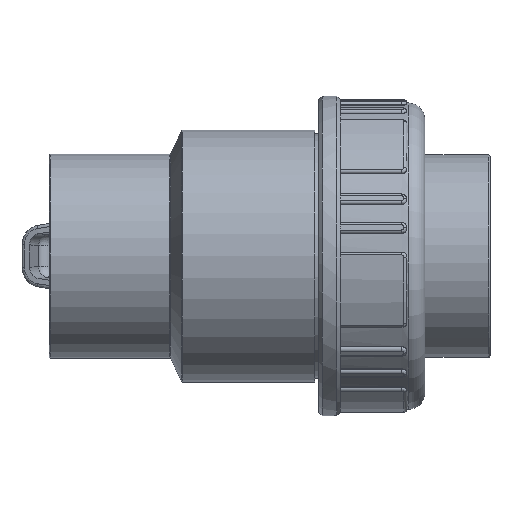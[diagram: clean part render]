
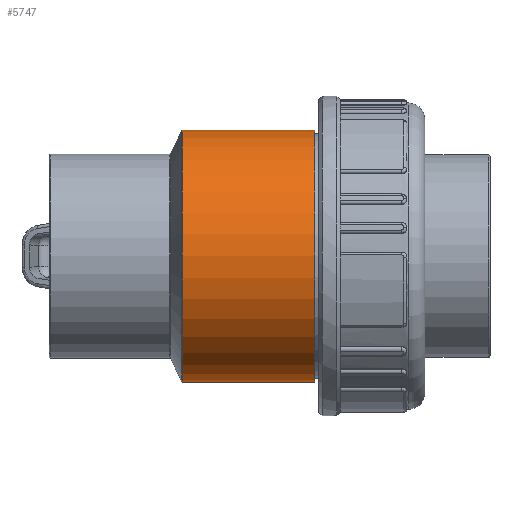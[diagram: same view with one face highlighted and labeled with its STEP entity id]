
A CAD part, left-side view. The second image highlights one B-rep face of the part: STEP entity #5747.
In plain terms, the highlighted cylindrical face has radius 38 mm (diameter 76 mm), a full revolution.
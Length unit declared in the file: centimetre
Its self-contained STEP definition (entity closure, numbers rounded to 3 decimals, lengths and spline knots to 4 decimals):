
#205=FACE_BOUND('',#1293,.T.);
#206=FACE_BOUND('',#1294,.T.);
#468=CIRCLE('',#6287,3.8);
#469=CIRCLE('',#6288,3.8);
#612=CYLINDRICAL_SURFACE('',#6286,3.8);
#921=FACE_OUTER_BOUND('',#1292,.T.);
#1292=EDGE_LOOP('',(#4810));
#1293=EDGE_LOOP('',(#4811));
#1294=EDGE_LOOP('',(#4812));
#2111=B_SPLINE_CURVE_WITH_KNOTS('',3,(#32281,#32282,#32283,#32284,#32285,
#32286,#32287,#32288,#32289,#32290,#32291,#32292,#32293,#32294,#32295,#32296,
#32297,#32298),.UNSPECIFIED.,.T.,.F.,(4,1,1,1,1,1,1,1,1,1,1,1,1,1,1,4),
(-9.7772,-9.0788,-8.3804,-7.6821,
-6.9837,-6.2853,-5.587,-5.1214,
-4.6558,-4.1902,-3.2591,-2.7935,
-2.0951,-1.3967,-0.6984,0.),
 .UNSPECIFIED.);
#2571=VERTEX_POINT('',#32260);
#2576=VERTEX_POINT('',#32317);
#2577=VERTEX_POINT('',#32319);
#3327=EDGE_CURVE('',#2571,#2571,#2111,.T.);
#3333=EDGE_CURVE('',#2576,#2576,#468,.T.);
#3334=EDGE_CURVE('',#2577,#2577,#469,.T.);
#4810=ORIENTED_EDGE('',*,*,#3333,.F.);
#4811=ORIENTED_EDGE('',*,*,#3334,.T.);
#4812=ORIENTED_EDGE('',*,*,#3327,.F.);
#5747=ADVANCED_FACE('',(#921,#205,#206),#612,.T.);
#6286=AXIS2_PLACEMENT_3D('',#32316,#7639,#7640);
#6287=AXIS2_PLACEMENT_3D('',#32318,#7641,#7642);
#6288=AXIS2_PLACEMENT_3D('',#32320,#7643,#7644);
#7639=DIRECTION('center_axis',(0.,1.,0.));
#7640=DIRECTION('ref_axis',(-1.,0.,0.));
#7641=DIRECTION('center_axis',(0.,1.,0.));
#7642=DIRECTION('ref_axis',(1.,0.,0.));
#7643=DIRECTION('center_axis',(0.,1.,0.));
#7644=DIRECTION('ref_axis',(1.,0.,0.));
#32260=CARTESIAN_POINT('',(3.4387,0.,1.6172));
#32281=CARTESIAN_POINT('Ctrl Pts',(3.4384,0.,
1.6174));
#32282=CARTESIAN_POINT('Ctrl Pts',(3.4384,-0.2464,
1.6174));
#32283=CARTESIAN_POINT('Ctrl Pts',(3.4956,-0.7391,
1.5025));
#32284=CARTESIAN_POINT('Ctrl Pts',(3.6697,-1.3132,1.0454));
#32285=CARTESIAN_POINT('Ctrl Pts',(3.8052,-1.6435,0.3793));
#32286=CARTESIAN_POINT('Ctrl Pts',(3.8054,-1.6433,-0.3794));
#32287=CARTESIAN_POINT('Ctrl Pts',(3.6694,-1.3136,-1.0453));
#32288=CARTESIAN_POINT('Ctrl Pts',(3.5154,-0.8021,
-1.4515));
#32289=CARTESIAN_POINT('Ctrl Pts',(3.436,-0.2504,
-1.6233));
#32290=CARTESIAN_POINT('Ctrl Pts',(3.4358,0.2503,-1.6232));
#32291=CARTESIAN_POINT('Ctrl Pts',(3.5272,0.881,-1.4274));
#32292=CARTESIAN_POINT('Ctrl Pts',(3.6925,1.3685,-0.9776));
#32293=CARTESIAN_POINT('Ctrl Pts',(3.8051,1.6432,-0.2946));
#32294=CARTESIAN_POINT('Ctrl Pts',(3.8053,1.6435,0.379));
#32295=CARTESIAN_POINT('Ctrl Pts',(3.6696,1.3131,1.0455));
#32296=CARTESIAN_POINT('Ctrl Pts',(3.4956,0.7391,1.5025));
#32297=CARTESIAN_POINT('Ctrl Pts',(3.4384,0.2464,1.6174));
#32298=CARTESIAN_POINT('Ctrl Pts',(3.4384,0.,
1.6174));
#32316=CARTESIAN_POINT('Origin',(0.,0.24,
0.));
#32317=CARTESIAN_POINT('',(-3.8,2.2259,0.));
#32318=CARTESIAN_POINT('Origin',(0.,2.2259,0.));
#32319=CARTESIAN_POINT('',(-3.8,-1.765,0.));
#32320=CARTESIAN_POINT('Origin',(0.,-1.765,0.));
